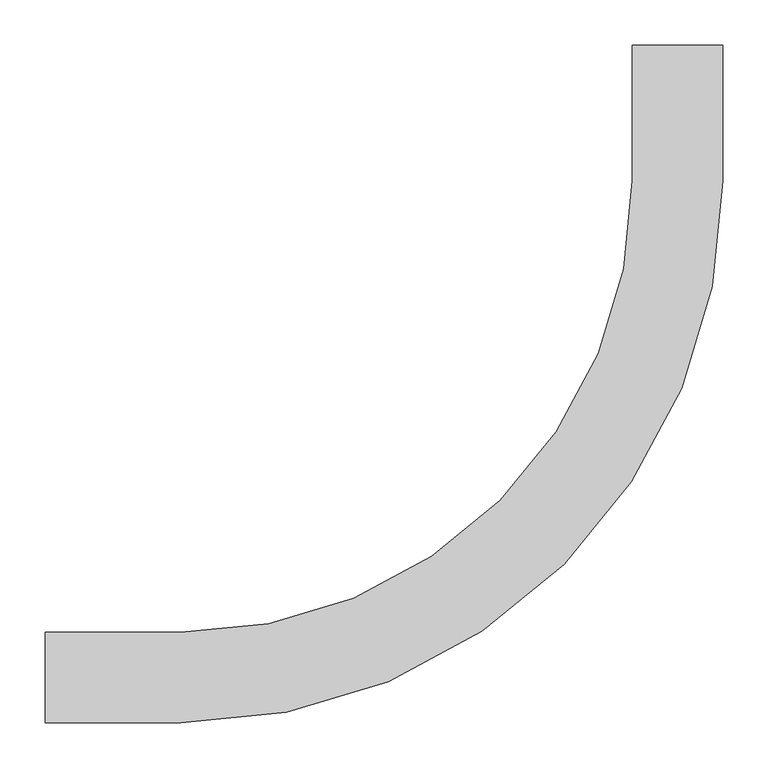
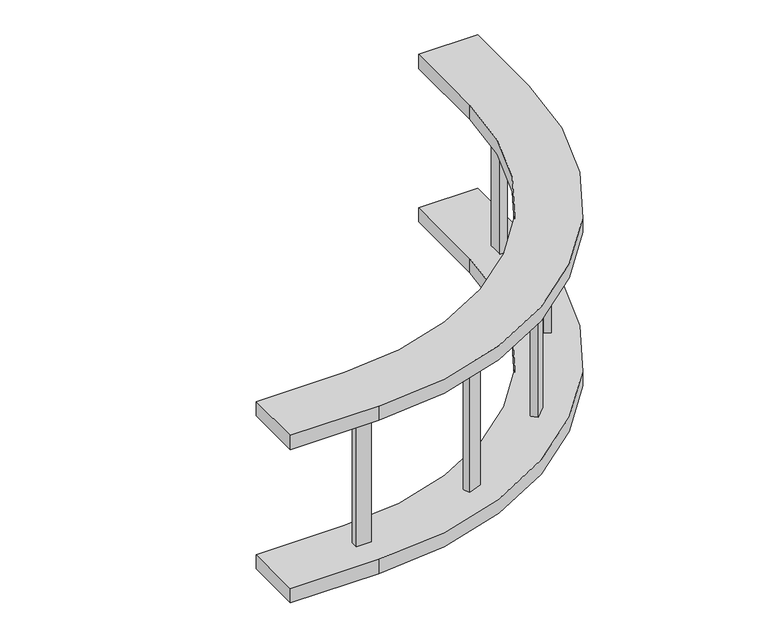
"""IFC4 building model written with IfcOpenShell, lengths in millimetres: cable carrier fitting geometry, BAKS_LDLS_BEND_Vertical bend 90deg external_LZDS : LZDSC_H100."""

from ifc_helpers import new_model, si_unit, point, frame, frame_2d, origin, place, context, project, spatial, polyline, circle_curve, trimmed, segment, composite_curve, outline, extrude, source, transform, mapped, element, save


def cable_carrier_fitting_b51c3b06(model_context):
    return source(origin(), model_context, "Body", "SweptSolid", [
        extrude(outline(polyline([(-42.5494547, 353.5534829), (-31.4629003, 348.9612817), (-41.1830595, 325.4947415), (-52.2696139, 330.0869427), (-42.5494547, 353.5534829)])), frame((0.0, 0.0, -124.6), z_axis=(0.0, 0.0, 1.0), x_axis=(1.0, 0.0, 0.0)), (0.0, 0.0, 1.0), 249.2),
        extrude(outline(polyline([(-330.0869427, 52.2696139), (-325.4947415, 41.1830595), (-348.9612817, 31.4629003), (-353.5534829, 42.5494547), (-330.0869427, 52.2696139)])), frame((0.0, 0.0, -124.6), z_axis=(0.0, 0.0, 1.0), x_axis=(1.0, 0.0, 0.0)), (0.0, 0.0, 1.0), 249.2),
        extrude(outline(polyline([(-6.0, 562.7), (6.0, 562.7), (6.0, 537.3), (-6.0, 537.3), (-6.0, 562.7)])), frame((0.0, 0.0, -124.6), z_axis=(0.0, 0.0, 1.0), x_axis=(1.0, 0.0, 0.0)), (0.0, 0.0, 1.0), 249.2),
        extrude(outline(polyline([(-156.3536549, 174.3141672), (-147.8683735, 165.8288858), (-165.8288858, 147.8683735), (-174.3141672, 156.3536549), (-156.3536549, 174.3141672)])), frame((0.0, 0.0, -124.6), z_axis=(0.0, 0.0, 1.0), x_axis=(1.0, 0.0, 0.0)), (0.0, 0.0, 1.0), 249.2),
        extrude(outline(polyline([(-562.7, -6.0), (-562.7, 6.0), (-537.3, 6.0), (-537.3, -6.0), (-562.7, -6.0)])), frame((0.0, 0.0, -124.6), z_axis=(0.0, 0.0, 1.0), x_axis=(1.0, 0.0, 0.0)), (0.0, 0.0, 1.0), 249.2),
        extrude(outline(composite_curve([segment(polyline([(-700.0, -50.0), (-700.0, 50.0), (-550.0, 50.0)]), True, "CONTINUOUS"), segment(trimmed(circle_curve(frame_2d((-550.0, 550.0)), 500.0), [point((-550.0, 50.0))], [point((-50.0, 550.0))], True, "CARTESIAN"), True, "CONTINUOUS"), segment(polyline([(-50.0, 550.0), (-50.0, 700.0), (50.0, 700.0), (50.0, 550.0)]), True, "CONTINUOUS"), segment(trimmed(circle_curve(frame_2d((-550.0, 550.0)), 600.0), [point((50.0, 550.0))], [point((-550.0, -50.0))], False, "CARTESIAN"), True, "CONTINUOUS"), segment(polyline([(-550.0, -50.0), (-700.0, -50.0)]), True, "CONTINUOUS")], self_intersect=False)), frame((0.0, 0.0, 124.6), z_axis=(0.0, 0.0, 1.0), x_axis=(1.0, 0.0, 0.0)), (0.0, 0.0, 1.0), 25.4),
        extrude(outline(composite_curve([segment(polyline([(-700.0, -50.0), (-700.0, 50.0), (-550.0, 50.0)]), True, "CONTINUOUS"), segment(trimmed(circle_curve(frame_2d((-550.0, 550.0)), 500.0), [point((-550.0, 50.0))], [point((-50.0, 550.0))], True, "CARTESIAN"), True, "CONTINUOUS"), segment(polyline([(-50.0, 550.0), (-50.0, 700.0), (50.0, 700.0), (50.0, 550.0)]), True, "CONTINUOUS"), segment(trimmed(circle_curve(frame_2d((-550.0, 550.0)), 600.0), [point((50.0, 550.0))], [point((-550.0, -50.0))], False, "CARTESIAN"), True, "CONTINUOUS"), segment(polyline([(-550.0, -50.0), (-700.0, -50.0)]), True, "CONTINUOUS")], self_intersect=False)), frame((0.0, 0.0, -150.0), z_axis=(0.0, 0.0, 1.0), x_axis=(1.0, 0.0, 0.0)), (0.0, 0.0, 1.0), 25.4),
    ])


if __name__ == "__main__":
    model = new_model("IFC4")
    model_context = context("Model", 3, world=origin())
    ifc_project = project(units=[si_unit("LENGTHUNIT", "METRE", prefix="MILLI")], contexts=[model_context])
    site = spatial("IfcSite", under=ifc_project)
    building = spatial("IfcBuilding", under=site)
    placement = place(None, origin())
    cable_carrier_fitting_shape = cable_carrier_fitting_b51c3b06(model_context)
    element("IfcCableCarrierFitting", 1, ObjectType="BAKS_LDLS_BEND_Vertical bend 90deg external_LZDS : LZDSC_H100", at=placement, inside=building, context=model_context, shape_type="MappedRepresentation", body=[
        mapped(cable_carrier_fitting_shape, transform((0.0, 0.0, 0.0), x_axis=(1.0, 0.0, 0.0), y_axis=(0.0, 1.0, 0.0), z_axis=(0.0, 0.0, 1.0))),
    ])
    save(model, "model.ifc")
